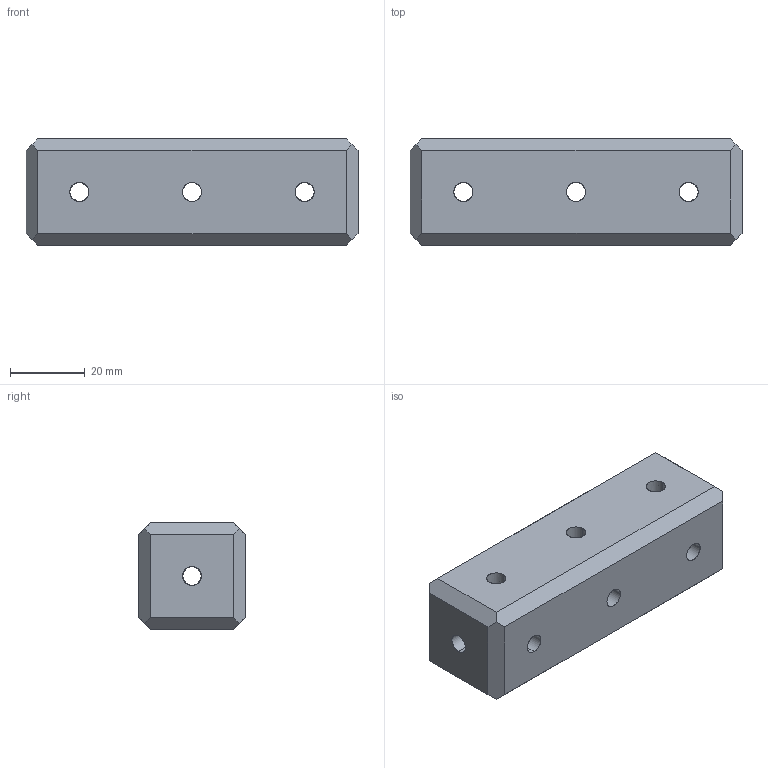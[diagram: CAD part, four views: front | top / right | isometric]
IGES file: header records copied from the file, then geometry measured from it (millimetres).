
Start section: SolidWorks IGES file using analytic representation for surfaces
Global section: file name: \\SERVER3\Design\_New Design Drive Folder List\_Design Vault\AAI\Modular Round Tube Connectors\Solidworks Models\STP Files\12202013\1.000 Inch Modular Connectors\DRP-002-0549-00.IGS; native system: SolidWorks 2013; preprocessor: SolidWorks 2013; author: tbraun; date: 131220.123027; units: inch
Bounding box: 88.9 x 28.57 x 28.57 mm (x, y, z)
Surface area: 13918.8 mm2 (no closed solid volume)
Topology: 0 solids, 0 shells, 50 faces, 1212 edges, 1212 vertices
Faces by surface type: revolution 32, bspline 18
